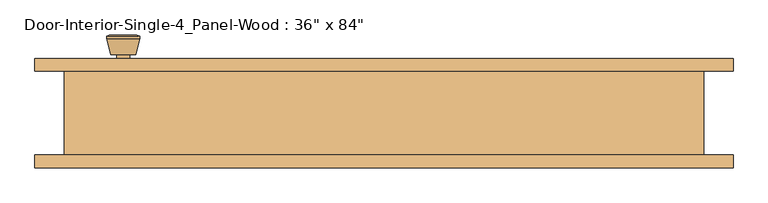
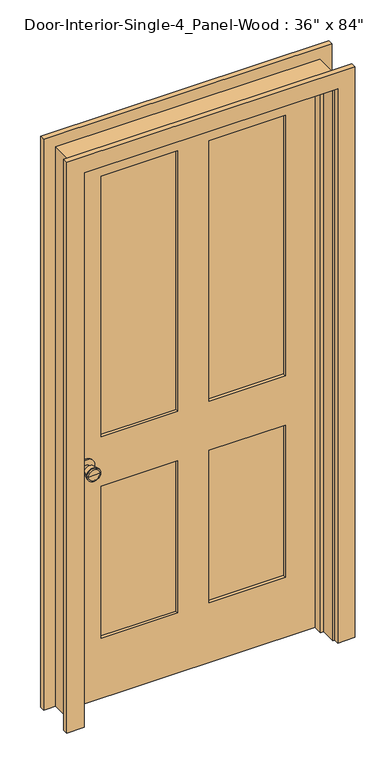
"""IFC4 building model written with IfcOpenShell, lengths in millimetres: door geometry."""

import ifcopenshell
import ifcopenshell.guid

model = None  # the IFC model being written
_history = None  # IfcOwnerHistory: only IFC2X3 demands one
_inside = {}  # id of a spatial element -> (the spatial element, [elements in it])
_under = {}  # id of a project, library or spatial element -> (it, [spatial elements below it])
_declared = {}  # id of a project -> (the project, [libraries it declares])
_typed = {}  # id of a type object -> (the type object, [elements of that type])
_made_of = {}  # id of a material, layer set ... -> (it, [elements and type objects made of it])


def new_model(schema):
    """Start an empty IFC model of exactly this schema.

    Asked for "IFC4X3", IfcOpenShell would pick the latest addendum, in which some entities
    have other attributes; the version numbers below select the first issue.
    IFC2X3 requires an IfcOwnerHistory on every rooted entity: one is made here for all.
    """
    global model, _history
    if schema == "IFC4X3":
        model = ifcopenshell.file(schema_version=(4, 3, 0, 0))
    else:
        model = ifcopenshell.file(schema=schema)
    _inside.clear()
    _under.clear()
    _declared.clear()
    _typed.clear()
    _made_of.clear()
    _history = None
    if model.schema == "IFC2X3":
        org = make("IfcOrganization", Name="unknown")
        user = make(
            "IfcPersonAndOrganization",
            ThePerson=make("IfcPerson", FamilyName="unknown"),
            TheOrganization=org,
        )
        app = make(
            "IfcApplication",
            ApplicationDeveloper=org,
            Version="unknown",
            ApplicationFullName="unknown",
            ApplicationIdentifier="unknown",
        )
        _history = make(
            "IfcOwnerHistory",
            OwningUser=user,
            OwningApplication=app,
            ChangeAction="ADDED",
            CreationDate=0,
        )
    return model


def make(cls, **values):
    """One entity of the class cls with the attributes given. An attribute that is None is left unset."""
    return model.create_entity(
        cls, **{name: value for name, value in values.items() if value is not None}
    )


def rooted(cls, **values):
    """An entity with a GlobalId (a new one), such as an element, a storey or a relation."""
    return make(cls, GlobalId=ifcopenshell.guid.new(), OwnerHistory=_history, **values)


def si_unit(unit_type, name, prefix=None):
    """IfcSIUnit, for example si_unit("LENGTHUNIT", "METRE", prefix="MILLI")."""
    return make("IfcSIUnit", UnitType=unit_type, Prefix=prefix, Name=name)


def assignment(units):
    """IfcUnitAssignment: the units of a project."""
    return None if units is None else make("IfcUnitAssignment", Units=units)


def point(xyz):
    """IfcCartesianPoint."""
    return None if xyz is None else make("IfcCartesianPoint", Coordinates=xyz)


def direction(xyz):
    """IfcDirection."""
    return None if xyz is None else make("IfcDirection", DirectionRatios=xyz)


def frame(location, z_axis=None, x_axis=None):
    """IfcAxis2Placement3D, a coordinate frame: its origin and axes. An axis left out is left unset."""
    return make(
        "IfcAxis2Placement3D",
        Location=point(location),
        Axis=direction(z_axis),
        RefDirection=direction(x_axis),
    )


def frame_2d(location, x_axis=None):
    """IfcAxis2Placement2D, a coordinate frame in the plane: its origin and x axis."""
    return make(
        "IfcAxis2Placement2D", Location=point(location), RefDirection=direction(x_axis)
    )


def origin():
    """The frame at (0, 0, 0) with its axes left unset."""
    return frame((0.0, 0.0, 0.0))


def place(relative_to, where):
    """IfcLocalPlacement: puts the frame where relative to a parent placement (None: the world)."""
    return make(
        "IfcLocalPlacement", PlacementRelTo=relative_to, RelativePlacement=where
    )


def context(
    kind, dimensions, precision=None, world=None, true_north=None, identifier=None
):
    """IfcGeometricRepresentationContext, for example the 3D "Model" context."""
    return make(
        "IfcGeometricRepresentationContext",
        ContextIdentifier=identifier,
        ContextType=kind,
        CoordinateSpaceDimension=dimensions,
        Precision=precision,
        WorldCoordinateSystem=world,
        TrueNorth=true_north,
    )


def project(units=None, contexts=None):
    """IfcProject with its units and contexts."""
    return rooted(
        "IfcProject",
        Name="project",
        RepresentationContexts=contexts,
        UnitsInContext=assignment(units),
    )


def spatial(cls, under=None, at=None, **own):
    """A site, building, storey or space (cls), placed at a placement, below another one or the project."""
    s = rooted(cls, ObjectPlacement=at, **own)
    if under is not None:
        _under.setdefault(under.id(), (under, []))[1].append(s)
    return s


def polyline(points):
    """IfcPolyline through the points."""
    return make("IfcPolyline", Points=[point(p) for p in points])


def circle_curve(where, radius):
    """IfcCircle in the frame where."""
    return make("IfcCircle", Position=where, Radius=radius)


def trimmed(basis, trim1, trim2, sense, master):
    """IfcTrimmedCurve: the piece of a basis curve between two trims."""
    return make(
        "IfcTrimmedCurve",
        BasisCurve=basis,
        Trim1=trim1,
        Trim2=trim2,
        SenseAgreement=sense,
        MasterRepresentation=master,
    )


def segment(curve, same_sense, transition):
    """IfcCompositeCurveSegment."""
    return make(
        "IfcCompositeCurveSegment",
        Transition=transition,
        SameSense=same_sense,
        ParentCurve=curve,
    )


def composite_curve(segments, self_intersect=None):
    """IfcCompositeCurve: segments joined end to end."""
    return make("IfcCompositeCurve", Segments=segments, SelfIntersect=self_intersect)


def outline(outer, holes=None, kind="AREA"):
    """IfcArbitraryClosedProfileDef: a profile drawn as a closed curve; with holes, ...WithVoids."""
    if holes is None:
        return make("IfcArbitraryClosedProfileDef", ProfileType=kind, OuterCurve=outer)
    return make(
        "IfcArbitraryProfileDefWithVoids",
        ProfileType=kind,
        OuterCurve=outer,
        InnerCurves=holes,
    )


def extrude(swept, where, along, depth):
    """IfcExtrudedAreaSolid: the profile swept, set in the frame where, extruded along a direction by depth."""
    return make(
        "IfcExtrudedAreaSolid",
        SweptArea=swept,
        Position=where,
        ExtrudedDirection=direction(along),
        Depth=depth,
    )


def faces_of(points, faces, orient=None, outer=None):
    """IfcFace entities. A face is a list of loops; a loop is a list of indices into points, from 0.

    orient and outer hold one flag for each loop. By default every Orientation is true, the
    first loop of a face is its IfcFaceOuterBound and the others are IfcFaceBound.
    """
    made = []
    for i, loops in enumerate(faces):
        bounds = []
        for j, loop in enumerate(loops):
            is_outer = j == 0 if outer is None else outer[i][j]
            bounds.append(
                make(
                    "IfcFaceOuterBound" if is_outer else "IfcFaceBound",
                    Bound=make("IfcPolyLoop", Polygon=[points[k] for k in loop]),
                    Orientation=True if orient is None else orient[i][j],
                )
            )
        made.append(make("IfcFace", Bounds=bounds))
    return made


def faceted_brep(points, faces, orient=None, outer=None, voids=None):
    """IfcFacetedBrep: a solid bounded by flat faces; with voids (closed shells), ...WithVoids."""
    shared = [point(p) for p in points]
    hull = make("IfcClosedShell", CfsFaces=faces_of(shared, faces, orient, outer))
    if voids is None:
        return make("IfcFacetedBrep", Outer=hull)
    return make(
        "IfcFacetedBrepWithVoids",
        Outer=hull,
        Voids=[
            make(cls, CfsFaces=faces_of(shared, fs, o, b)) for cls, fs, o, b in voids
        ],
    )


def shape(context_of_items, identifier, shape_type, items):
    """IfcShapeRepresentation: the items that make up one representation, for example the "Body"."""
    return make(
        "IfcShapeRepresentation",
        ContextOfItems=context_of_items,
        RepresentationIdentifier=identifier,
        RepresentationType=shape_type,
        Items=items,
    )


def source(mapping_origin, context_of_items, identifier, shape_type, items):
    """IfcRepresentationMap: a shape defined once, which mapped items show again and again."""
    return make(
        "IfcRepresentationMap",
        MappingOrigin=mapping_origin,
        MappedRepresentation=shape(context_of_items, identifier, shape_type, items),
    )


def transform(
    local_origin,
    x_axis=None,
    y_axis=None,
    z_axis=None,
    scale=None,
    scale2=None,
    scale3=None,
    uniform=True,
):
    """IfcCartesianTransformationOperator3D, or its non-uniform kind. x_axis, y_axis, z_axis: its Axis1, 2, 3."""
    if uniform:
        return make(
            "IfcCartesianTransformationOperator3D",
            Axis1=direction(x_axis),
            Axis2=direction(y_axis),
            LocalOrigin=point(local_origin),
            Scale=scale,
            Axis3=direction(z_axis),
        )
    return make(
        "IfcCartesianTransformationOperator3DnonUniform",
        Axis1=direction(x_axis),
        Axis2=direction(y_axis),
        LocalOrigin=point(local_origin),
        Scale=scale,
        Axis3=direction(z_axis),
        Scale2=scale2,
        Scale3=scale3,
    )


def mapped(mapping_source, mapping_target):
    """IfcMappedItem: shows the shape of a source again, moved by a transform."""
    return make(
        "IfcMappedItem", MappingSource=mapping_source, MappingTarget=mapping_target
    )


def made_of(thing, what):
    """Note that an element or type object is made of a material, layer set ...; save() writes the relation."""
    if what is not None:
        _made_of.setdefault(what.id(), (what, []))[1].append(thing)
    return thing


def element(
    cls,
    number,
    at=None,
    inside=None,
    cuts=None,
    type_object=None,
    material=None,
    context=None,
    identifier="Body",
    shape_type=None,
    held_by="IfcProductDefinitionShape",
    body=None,
    shapes=None,
    **own,
):
    """One element of the class cls, such as IfcWall. Its Tag is "e" and its number.

    at: its placement. inside: the storey or other place that contains it. cuts: it is an
    opening in that element (IfcRelVoidsElement). A single representation is given by context,
    identifier, shape_type and body (its items); several are given by shapes. held_by: the class
    of the entity that holds the representations. save() writes the other relations.
    """
    e = rooted(cls, Tag="e%d" % number, ObjectPlacement=at, **own)
    if body is not None:
        shapes = [shape(context, identifier, shape_type, body)]
    if shapes is not None:
        e.Representation = make(held_by, Representations=shapes)
    if inside is not None:
        _inside.setdefault(inside.id(), (inside, []))[1].append(e)
    if cuts is not None:
        rooted(
            "IfcRelVoidsElement", RelatingBuildingElement=cuts, RelatedOpeningElement=e
        )
    if type_object is not None:
        _typed.setdefault(type_object.id(), (type_object, []))[1].append(e)
    return made_of(e, material)


def aggregate(whole, parts):
    """IfcRelAggregates: a whole, such as a stair, and the parts it consists of."""
    return rooted("IfcRelAggregates", RelatingObject=whole, RelatedObjects=parts)


def save(model, path):
    """Write the relations noted so far, then the file.

    IfcRelAggregates (storeys below a building ...), IfcRelContainedInSpatialStructure (elements
    in a storey), IfcRelDefinesByType, IfcRelAssociatesMaterial and IfcRelDeclares: one each for
    every whole, place, type object, material and project.
    """
    for whole, parts in _under.values():
        aggregate(whole, parts)
    for where, things in _inside.values():
        rooted(
            "IfcRelContainedInSpatialStructure",
            RelatedElements=things,
            RelatingStructure=where,
        )
    for kind, things in _typed.values():
        rooted("IfcRelDefinesByType", RelatedObjects=things, RelatingType=kind)
    for what, things in _made_of.values():
        rooted("IfcRelAssociatesMaterial", RelatedObjects=things, RelatingMaterial=what)
    for by, libraries in _declared.values():
        rooted("IfcRelDeclares", RelatingContext=by, RelatedDefinitions=libraries)
    model.write(path)


def plane_surface(at):
    """IfcPlane: the flat surface through the origin of the frame at, square to its z axis."""
    return make("IfcPlane", Position=at)


def cylinder_surface(at, radius):
    """IfcCylindricalSurface: all points at the distance radius from the z axis of the frame at."""
    return make("IfcCylindricalSurface", Position=at, Radius=radius)


def revolved_surface(curve, axis_point, axis_direction):
    """IfcSurfaceOfRevolution: the curve turned about the line through axis_point along axis_direction."""
    return make(
        "IfcSurfaceOfRevolution",
        SweptCurve=make("IfcArbitraryOpenProfileDef", ProfileType="CURVE", Curve=curve),
        AxisPosition=make("IfcAxis1Placement", Location=point(axis_point), Axis=direction(axis_direction)),
    )


def advanced_brep(points, edges, surfaces, faces):
    """IfcAdvancedBrep: a solid bounded by faces that lie on surfaces and meet in shared edges.

    An edge is (start, end): straight between two places in points (the first is 0);
    or (start, end, curve); or (start, end, curve, False) where it runs against its curve.
    A face is (place in surfaces, loops), or (place, loops, False) where it looks against
    its surface's normal. A loop lists edges by number (the first is 1), with a minus sign
    where the edge is run from its end to its start. The first loop is the outer one.
    """
    corners = [point(p) for p in points]
    vertices = [make("IfcVertexPoint", VertexGeometry=c) for c in corners]
    made = []
    for start, end, *more in edges:
        made.append(
            make(
                "IfcEdgeCurve",
                EdgeStart=vertices[start],
                EdgeEnd=vertices[end],
                EdgeGeometry=more[0] if more else make("IfcPolyline", Points=[corners[start], corners[end]]),
                SameSense=more[1] if len(more) > 1 else True,
            )
        )
    hull = []
    for where, loops, *sense in faces:
        bounds = []
        for j, loop in enumerate(loops):
            ring = [make("IfcOrientedEdge", EdgeElement=made[abs(k) - 1], Orientation=k > 0) for k in loop]
            bounds.append(
                make(
                    "IfcFaceOuterBound" if j == 0 else "IfcFaceBound",
                    Bound=make("IfcEdgeLoop", EdgeList=ring),
                    Orientation=True,
                )
            )
        hull.append(make("IfcAdvancedFace", Bounds=bounds, FaceSurface=surfaces[where], SameSense=sense[0] if sense else True))
    return make("IfcAdvancedBrep", Outer=make("IfcClosedShell", CfsFaces=hull))


def door_48307b55(model_context):
    return source(origin(), model_context, "Body", "SolidModel", [
        advanced_brep(
        [(-393.7, 19.4, 914.4), (-383.7, 19.4, 914.4), (-403.7, 19.4, 914.4), (-373.2241324, -29.6, 914.4), (-393.7, -29.6, 914.4), (-414.1758676, -29.6, 914.4), (-368.7, -27.7721319, 914.4), (-418.7, -27.7721319, 914.4), (-368.7, -24.3084537, 914.4), (-418.7, -24.3084537, 914.4), (-375.063764, 0.4, 914.4), (-412.336236, 0.4, 914.4), (-383.7, 0.4, 914.4), (-403.7, 0.4, 914.4)],
        [
            (0, 1),
            (1, 2, circle_curve(frame((-393.7, 19.4, 914.4), z_axis=(0.0, 1.0, 0.0), x_axis=(-1.0, 0.0, 0.0)), 10.0)),
            (2, 0),
            (2, 1, circle_curve(frame((-393.7, 19.4, 914.4), z_axis=(0.0, 1.0, 0.0), x_axis=(-1.0, 0.0, 0.0)), 10.0)),
            (3, 4),
            (4, 5),
            (5, 3, circle_curve(frame((-393.7, -29.6, 914.4), z_axis=(0.0, -1.0, 0.0), x_axis=(-1.0, 0.0, 0.0)), 20.4758676)),
            (3, 5, circle_curve(frame((-393.7, -29.6, 914.4), z_axis=(0.0, -1.0, 0.0), x_axis=(-1.0, 0.0, 0.0)), 20.4758676)),
            (6, 3),
            (5, 7),
            (7, 6, circle_curve(frame((-393.7, -27.7721319, 914.4), z_axis=(0.0, -1.0, 0.0), x_axis=(-1.0, 0.0, 0.0)), 25.0)),
            (6, 7, circle_curve(frame((-393.7, -27.7721319, 914.4), z_axis=(0.0, -1.0, 0.0), x_axis=(-1.0, 0.0, 0.0)), 25.0)),
            (8, 6),
            (7, 9),
            (9, 8, circle_curve(frame((-393.7, -24.3084537, 914.4), z_axis=(0.0, -1.0, 0.0), x_axis=(-1.0, 0.0, 0.0)), 25.0)),
            (8, 9, circle_curve(frame((-393.7, -24.3084537, 914.4), z_axis=(0.0, -1.0, 0.0), x_axis=(-1.0, 0.0, 0.0)), 25.0)),
            (10, 8),
            (9, 11),
            (11, 10, circle_curve(frame((-393.7, 0.4, 914.4), z_axis=(0.0, -1.0, 0.0), x_axis=(-1.0, 0.0, 0.0)), 18.636236)),
            (10, 11, circle_curve(frame((-393.7, 0.4, 914.4), z_axis=(0.0, -1.0, 0.0), x_axis=(-1.0, 0.0, 0.0)), 18.636236)),
            (12, 10),
            (11, 13),
            (13, 12, circle_curve(frame((-393.7, 0.4, 914.4), z_axis=(0.0, -1.0, 0.0), x_axis=(-1.0, 0.0, 0.0)), 10.0)),
            (12, 13, circle_curve(frame((-393.7, 0.4, 914.4), z_axis=(0.0, -1.0, 0.0), x_axis=(-1.0, 0.0, 0.0)), 10.0)),
            (1, 12),
            (13, 2),
        ],
        [
            plane_surface(frame((-393.7, 19.4, 914.4), z_axis=(0.0, 1.0, 0.0), x_axis=(-1.0, 0.0, 0.0))),
            plane_surface(frame((-393.7, -29.6, 914.4), z_axis=(0.0, -1.0, 0.0), x_axis=(-1.0, 0.0, 0.0))),
            revolved_surface(polyline([(-414.1758676, -29.6, 914.4), (-418.7, -27.7721319, 914.4)]), (-393.7, 19.4, 914.4), (0.0, 1.0, 0.0)),
            cylinder_surface(frame((-393.7, 19.4, 914.4), z_axis=(0.0, 1.0, 0.0), x_axis=(-1.0, 0.0, 0.0)), 25.0),
            revolved_surface(polyline([(-418.7, -24.3084537, 914.4), (-412.336236, 0.4, 914.4)]), (-393.7, 19.4, 914.4), (0.0, 1.0, 0.0)),
            plane_surface(frame((-393.7, 0.4, 914.4), z_axis=(0.0, 1.0, 0.0), x_axis=(-1.0, 0.0, 0.0))),
            cylinder_surface(frame((-393.7, 19.4, 914.4), z_axis=(0.0, 1.0, 0.0), x_axis=(-1.0, 0.0, 0.0)), 10.0),
        ],
        [
            (0, [[1, 2, 3]]),
            (0, [[-3, 4, -1]]),
            (1, [[5, 6, 7]]),
            (1, [[-6, -5, 8]]),
            (2, [[9, -7, 10, 11]]),
            (2, [[-10, -8, -9, 12]]),
            (3, [[13, -11, 14, 15]]),
            (3, [[-14, -12, -13, 16]]),
            (4, [[17, -15, 18, 19]]),
            (4, [[-18, -16, -17, 20]]),
            (5, [[21, -19, 22, 23]]),
            (5, [[-22, -20, -21, 24]]),
            (6, [[25, -23, 26, -2]]),
            (6, [[-26, -24, -25, -4]]),
        ],
    ),
        extrude(outline(composite_curve([segment(trimmed(circle_curve(frame_2d((914.4, -393.7)), 30.0), [point((914.4, -423.7))], [point((914.4, -363.7))], False, "CARTESIAN"), True, "CONTINUOUS"), segment(trimmed(circle_curve(frame_2d((914.4, -393.7)), 30.0), [point((914.4, -363.7))], [point((914.4, -423.7))], False, "CARTESIAN"), True, "CONTINUOUS")], self_intersect=False)), frame((0.0, 19.4, 0.0), z_axis=(0.0, 1.0, 0.0), x_axis=(0.0, 0.0, 1.0)), (0.0, 0.0, 1.0), 6.0),
        advanced_brep(
        [(-393.7, 66.325, 914.4), (-403.7, 66.325, 914.4), (-383.7, 66.325, 914.4), (-373.2241324, 115.325, 914.4), (-414.1758676, 115.325, 914.4), (-393.7, 115.325, 914.4), (-368.7, 113.4971319, 914.4), (-418.7, 113.4971319, 914.4), (-368.7, 110.0334537, 914.4), (-418.7, 110.0334537, 914.4), (-375.063764, 85.325, 914.4), (-412.336236, 85.325, 914.4), (-383.7, 85.325, 914.4), (-403.7, 85.325, 914.4)],
        [
            (0, 1),
            (1, 2, circle_curve(frame((-393.7, 66.325, 914.4), z_axis=(0.0, -1.0, 0.0), x_axis=(-1.0, 0.0, 0.0)), 10.0)),
            (2, 0),
            (2, 1, circle_curve(frame((-393.7, 66.325, 914.4), z_axis=(0.0, -1.0, 0.0), x_axis=(-1.0, 0.0, 0.0)), 10.0)),
            (3, 4, circle_curve(frame((-393.7, 115.325, 914.4), z_axis=(0.0, 1.0, 0.0), x_axis=(-1.0, 0.0, 0.0)), 20.4758676)),
            (4, 5),
            (5, 3),
            (4, 3, circle_curve(frame((-393.7, 115.325, 914.4), z_axis=(0.0, 1.0, 0.0), x_axis=(-1.0, 0.0, 0.0)), 20.4758676)),
            (6, 7, circle_curve(frame((-393.7, 113.4971319, 914.4), z_axis=(0.0, 1.0, 0.0), x_axis=(-1.0, 0.0, 0.0)), 25.0)),
            (7, 4),
            (3, 6),
            (7, 6, circle_curve(frame((-393.7, 113.4971319, 914.4), z_axis=(0.0, 1.0, 0.0), x_axis=(-1.0, 0.0, 0.0)), 25.0)),
            (8, 9, circle_curve(frame((-393.7, 110.0334537, 914.4), z_axis=(0.0, 1.0, 0.0), x_axis=(-1.0, 0.0, 0.0)), 25.0)),
            (9, 7),
            (6, 8),
            (9, 8, circle_curve(frame((-393.7, 110.0334537, 914.4), z_axis=(0.0, 1.0, 0.0), x_axis=(-1.0, 0.0, 0.0)), 25.0)),
            (10, 11, circle_curve(frame((-393.7, 85.325, 914.4), z_axis=(0.0, 1.0, 0.0), x_axis=(-1.0, 0.0, 0.0)), 18.636236)),
            (11, 9),
            (8, 10),
            (11, 10, circle_curve(frame((-393.7, 85.325, 914.4), z_axis=(0.0, 1.0, 0.0), x_axis=(-1.0, 0.0, 0.0)), 18.636236)),
            (12, 13, circle_curve(frame((-393.7, 85.325, 914.4), z_axis=(0.0, 1.0, 0.0), x_axis=(-1.0, 0.0, 0.0)), 10.0)),
            (13, 11),
            (10, 12),
            (13, 12, circle_curve(frame((-393.7, 85.325, 914.4), z_axis=(0.0, 1.0, 0.0), x_axis=(-1.0, 0.0, 0.0)), 10.0)),
            (1, 13),
            (12, 2),
        ],
        [
            plane_surface(frame((-393.7, 66.325, 914.4), z_axis=(0.0, -1.0, 0.0), x_axis=(-1.0, 0.0, 0.0))),
            plane_surface(frame((-393.7, 115.325, 914.4), z_axis=(0.0, 1.0, 0.0), x_axis=(-1.0, 0.0, 0.0))),
            revolved_surface(polyline([(-414.1758676, 115.325, 914.4), (-418.7, 113.4971319, 914.4)]), (-393.7, 66.325, 914.4), (0.0, -1.0, 0.0)),
            cylinder_surface(frame((-393.7, 66.325, 914.4), z_axis=(0.0, -1.0, 0.0), x_axis=(-1.0, 0.0, 0.0)), 25.0),
            revolved_surface(polyline([(-418.7, 110.0334537, 914.4), (-412.336236, 85.325, 914.4)]), (-393.7, 66.325, 914.4), (0.0, -1.0, 0.0)),
            plane_surface(frame((-393.7, 85.325, 914.4), z_axis=(0.0, -1.0, 0.0), x_axis=(-1.0, 0.0, 0.0))),
            cylinder_surface(frame((-393.7, 66.325, 914.4), z_axis=(0.0, -1.0, 0.0), x_axis=(-1.0, 0.0, 0.0)), 10.0),
        ],
        [
            (0, [[1, 2, 3]]),
            (0, [[-3, 4, -1]]),
            (1, [[5, 6, 7]]),
            (1, [[8, -7, -6]]),
            (2, [[9, 10, -5, 11]]),
            (2, [[12, -11, -8, -10]]),
            (3, [[13, 14, -9, 15]]),
            (3, [[16, -15, -12, -14]]),
            (4, [[17, 18, -13, 19]]),
            (4, [[20, -19, -16, -18]]),
            (5, [[21, 22, -17, 23]]),
            (5, [[24, -23, -20, -22]]),
            (6, [[-2, 25, -21, 26]]),
            (6, [[-4, -26, -24, -25]]),
        ],
    ),
        extrude(outline(composite_curve([segment(trimmed(circle_curve(frame_2d((914.4, -393.7)), 30.0), [point((914.4, -423.7))], [point((914.4, -363.7))], False, "CARTESIAN"), True, "CONTINUOUS"), segment(trimmed(circle_curve(frame_2d((914.4, -393.7)), 30.0), [point((914.4, -363.7))], [point((914.4, -423.7))], False, "CARTESIAN"), True, "CONTINUOUS")], self_intersect=False)), frame((0.0, 60.325, 0.0), z_axis=(0.0, 1.0, 0.0), x_axis=(0.0, 0.0, 1.0)), (0.0, 0.0, 1.0), 6.0),
        extrude(outline(polyline([(336.55, 37.0416667), (57.15, 37.0416667), (57.15, 48.6833333), (336.55, 48.6833333), (336.55, 37.0416667)])), frame((0.0, 0.0, 1009.65), z_axis=(0.0, 0.0, 1.0), x_axis=(1.0, 0.0, 0.0)), (0.0, 0.0, 1.0), 1004.8875),
        extrude(outline(polyline([(-57.15, 37.0416667), (-336.55, 37.0416667), (-336.55, 48.6833333), (-57.15, 48.6833333), (-57.15, 37.0416667)])), frame((0.0, 0.0, 1009.65), z_axis=(0.0, 0.0, 1.0), x_axis=(1.0, 0.0, 0.0)), (0.0, 0.0, 1.0), 1004.8875),
        extrude(outline(polyline([(336.55, 37.0416667), (57.15, 37.0416667), (57.15, 48.6833333), (336.55, 48.6833333), (336.55, 37.0416667)])), frame((0.0, 0.0, 231.775), z_axis=(0.0, 0.0, 1.0), x_axis=(1.0, 0.0, 0.0)), (0.0, 0.0, 1.0), 587.375),
        extrude(outline(polyline([(-57.15, 37.0416667), (-336.55, 37.0416667), (-336.55, 48.6833333), (-57.15, 48.6833333), (-57.15, 37.0416667)])), frame((0.0, 0.0, 231.775), z_axis=(0.0, 0.0, 1.0), x_axis=(1.0, 0.0, 0.0)), (0.0, 0.0, 1.0), 587.375),
        extrude(outline(polyline([(2133.6, -457.2), (0.0, -457.2), (0.0, 457.2), (2133.6, 457.2), (2133.6, -457.2)]), holes=[polyline([(2014.5375, 57.15), (2014.5375, 336.55), (1009.65, 336.55), (1009.65, 57.15), (2014.5375, 57.15)]), polyline([(1009.65, -57.15), (1009.65, -336.55), (2014.5375, -336.55), (2014.5375, -57.15), (1009.65, -57.15)]), polyline([(819.15, 57.15), (819.15, 336.55), (231.775, 336.55), (231.775, 57.15), (819.15, 57.15)]), polyline([(231.775, -57.15), (231.775, -336.55), (819.15, -336.55), (819.15, -57.15), (231.775, -57.15)])]), frame((0.0, 25.4, 0.0), z_axis=(0.0, 1.0, 0.0), x_axis=(0.0, 0.0, 1.0)), (0.0, 0.0, 1.0), 34.925),
        faceted_brep([(482.6, 60.325, 0.0), (482.6, -66.675, 0.0), (457.2, -66.675, 0.0), (457.2, -9.525, 0.0), (444.5, -9.525, 0.0), (444.5, 25.4, 0.0), (457.2, 25.4, 0.0), (457.2, 60.325, 0.0), (482.6, 60.325, 2159.0), (482.6, -66.675, 2159.0), (-482.6, -66.675, 2159.0), (-482.6, -66.675, 0.0), (-457.2, -66.675, 0.0), (-457.2, -66.675, 2133.6), (457.2, -66.675, 2133.6), (457.2, -9.525, 2133.6), (-457.2, -9.525, 2133.6), (-457.2, -9.525, 0.0), (-444.5, -9.525, 0.0), (-444.5, -9.525, 2120.9), (444.5, -9.525, 2120.9), (444.5, 25.4, 2120.9), (-444.5, 25.4, 2120.9), (-444.5, 25.4, 0.0), (-457.2, 25.4, 0.0), (-457.2, 25.4, 2133.6), (457.2, 25.4, 2133.6), (457.2, 60.325, 2133.6), (-457.2, 60.325, 2133.6), (-457.2, 60.325, 0.0), (-482.6, 60.325, 0.0), (-482.6, 60.325, 2159.0)], [[[0, 1, 2, 3, 4, 5, 6, 7]], [[1, 0, 8, 9]], [[2, 1, 9, 10, 11, 12, 13, 14]], [[3, 2, 14, 15]], [[4, 3, 15, 16, 17, 18, 19, 20]], [[5, 4, 20, 21]], [[6, 5, 21, 22, 23, 24, 25, 26]], [[7, 6, 26, 27]], [[0, 7, 27, 28, 29, 30, 31, 8]], [[9, 8, 31, 10]], [[15, 14, 13, 16]], [[21, 20, 19, 22]], [[27, 26, 25, 28]], [[30, 29, 24, 23, 18, 17, 12, 11]], [[10, 31, 30, 11]], [[16, 13, 12, 17]], [[22, 19, 18, 23]], [[28, 25, 24, 29]]]),
        extrude(outline(polyline([(0.0, 463.55), (0.0, 527.05), (2203.45, 527.05), (2203.45, -527.05), (0.0, -527.05), (0.0, -463.55), (2139.95, -463.55), (2139.95, 463.55), (0.0, 463.55)])), frame((0.0, -85.725, 0.0), z_axis=(0.0, 1.0, 0.0), x_axis=(0.0, 0.0, 1.0)), (0.0, 0.0, 1.0), 19.05),
        extrude(outline(polyline([(0.0, 463.55), (0.0, 527.05), (2203.45, 527.05), (2203.45, -527.05), (0.0, -527.05), (0.0, -463.55), (2139.95, -463.55), (2139.95, 463.55), (0.0, 463.55)])), frame((0.0, 60.325, 0.0), z_axis=(0.0, 1.0, 0.0), x_axis=(0.0, 0.0, 1.0)), (0.0, 0.0, 1.0), 19.05),
    ])


if __name__ == "__main__":
    model = new_model("IFC4")
    model_context = context("Model", 3, world=origin())
    ifc_project = project(units=[si_unit("LENGTHUNIT", "METRE", prefix="MILLI")], contexts=[model_context])
    site = spatial("IfcSite", under=ifc_project)
    building = spatial("IfcBuilding", under=site)
    placement = place(None, origin())
    door_shape = door_48307b55(model_context)
    element("IfcDoor", 1, ObjectType="Door-Interior-Single-4_Panel-Wood : 36\" x 84\"", at=placement, inside=building, context=model_context, shape_type="MappedRepresentation", body=[
        mapped(door_shape, transform((0.0, 0.0, 0.0), x_axis=(1.0, 0.0, 0.0), y_axis=(0.0, 1.0, 0.0), z_axis=(0.0, 0.0, 1.0))),
    ])
    save(model, "model.ifc")
